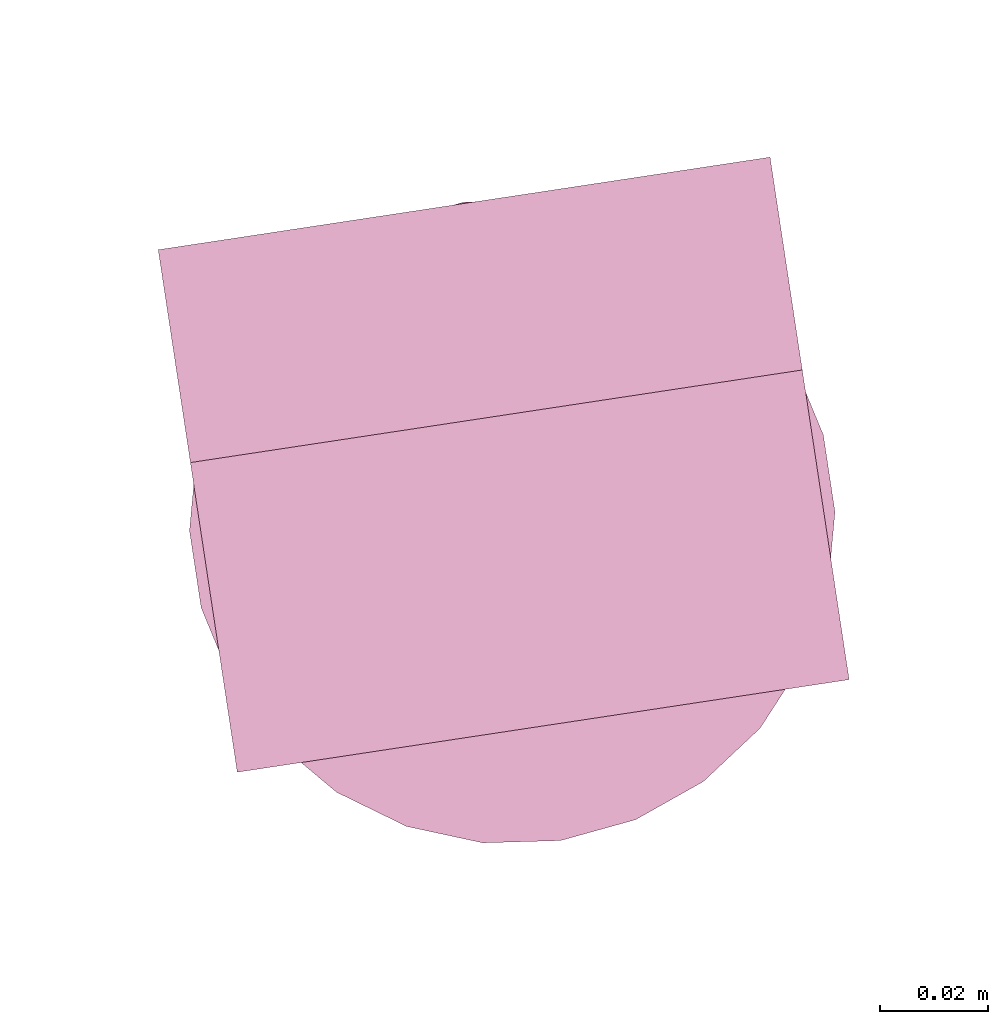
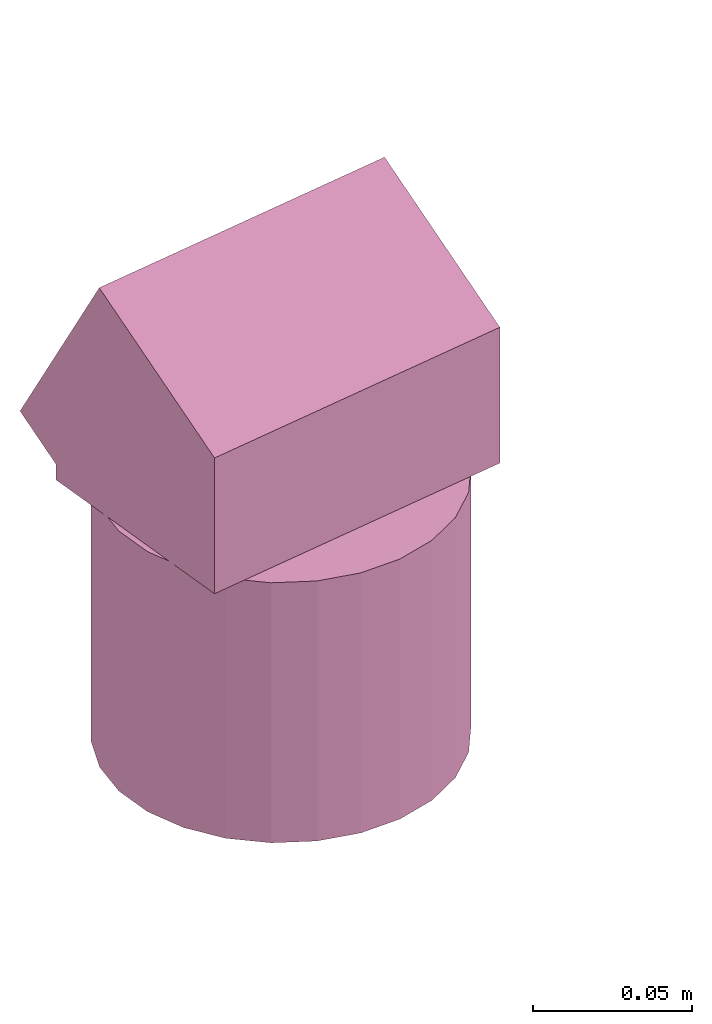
# One storey, part 6 of 10: 1 furnishing.
"""IFC2X3 building model written with IfcOpenShell, lengths in metres."""

from ifc_helpers import new_model, entity, si_unit, converted_unit, derived_unit, direction, frame, frame_2d, origin, place, context, subcontext, project, spatial, polyline, circle, outline, extrude, source, transform, mapped, material, material_list, type_object, type_shapes, element, save


model = new_model("IFC2X3")

# Units and contexts
model_context = context("Model", 3, precision=1e-05, world=origin(), true_north=direction((6.123031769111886e-17, 1.0)))
body_context = subcontext(model_context, "Body", "Model", "MODEL_VIEW")
ifc_project = project(units=[si_unit("LENGTHUNIT", "METRE"), si_unit("AREAUNIT", "SQUARE_METRE"), si_unit("VOLUMEUNIT", "CUBIC_METRE"), converted_unit("PLANEANGLEUNIT", "DEGREE", entity("IfcRatioMeasure", 0.017453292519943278), si_unit("PLANEANGLEUNIT", "RADIAN"), dimensions=[0, 0, 0, 0, 0, 0, 0]), si_unit("MASSUNIT", "GRAM", prefix="KILO"), derived_unit("MASSDENSITYUNIT", [(si_unit("MASSUNIT", "GRAM", prefix="KILO"), 1), (si_unit("LENGTHUNIT", "METRE"), -3)]), derived_unit("IONCONCENTRATIONUNIT", [(si_unit("MASSUNIT", "GRAM", prefix="KILO"), 1), (si_unit("LENGTHUNIT", "METRE"), -3)]), derived_unit("MOMENTOFINERTIAUNIT", [(si_unit("LENGTHUNIT", "METRE"), 4)]), si_unit("TIMEUNIT", "SECOND"), si_unit("FREQUENCYUNIT", "HERTZ"), si_unit("THERMODYNAMICTEMPERATUREUNIT", "DEGREE_CELSIUS"), derived_unit("THERMALTRANSMITTANCEUNIT", [(si_unit("MASSUNIT", "GRAM", prefix="KILO"), 1), (si_unit("THERMODYNAMICTEMPERATUREUNIT", "KELVIN"), -1), (si_unit("TIMEUNIT", "SECOND"), -3)]), derived_unit("THERMALCONDUCTANCEUNIT", [(si_unit("MASSUNIT", "GRAM", prefix="KILO"), 1), (si_unit("THERMODYNAMICTEMPERATUREUNIT", "KELVIN"), -1), (si_unit("TIMEUNIT", "SECOND"), -3), (si_unit("LENGTHUNIT", "METRE"), 1)]), derived_unit("VOLUMETRICFLOWRATEUNIT", [(si_unit("LENGTHUNIT", "METRE"), 3), (si_unit("TIMEUNIT", "SECOND"), -1)]), derived_unit("MASSFLOWRATEUNIT", [(si_unit("MASSUNIT", "GRAM", prefix="KILO"), 1), (si_unit("TIMEUNIT", "SECOND"), -1)]), derived_unit("ROTATIONALFREQUENCYUNIT", [(si_unit("TIMEUNIT", "SECOND"), -1)]), si_unit("ELECTRICCURRENTUNIT", "AMPERE"), si_unit("ELECTRICVOLTAGEUNIT", "VOLT"), si_unit("POWERUNIT", "WATT"), si_unit("FORCEUNIT", "NEWTON", prefix="KILO"), si_unit("ILLUMINANCEUNIT", "LUX"), si_unit("LUMINOUSFLUXUNIT", "LUMEN"), si_unit("LUMINOUSINTENSITYUNIT", "CANDELA"), derived_unit("USERDEFINED", [(si_unit("MASSUNIT", "GRAM", prefix="KILO"), -1), (si_unit("LENGTHUNIT", "METRE"), -2), (si_unit("TIMEUNIT", "SECOND"), 3), (si_unit("LUMINOUSFLUXUNIT", "LUMEN"), 1)]), derived_unit("USERDEFINED", [(si_unit("MASSUNIT", "GRAM", prefix="KILO"), 1), (si_unit("TIMEUNIT", "SECOND"), -3), (si_unit("LENGTHUNIT", "METRE"), 3), (si_unit("ELECTRICCURRENTUNIT", "AMPERE"), -2)]), derived_unit("SOUNDPOWERUNIT", [(si_unit("MASSUNIT", "GRAM", prefix="KILO"), 1), (si_unit("TIMEUNIT", "SECOND"), -3), (si_unit("LENGTHUNIT", "METRE"), 2)]), derived_unit("SOUNDPRESSUREUNIT", [(si_unit("MASSUNIT", "GRAM", prefix="KILO"), 1), (si_unit("LENGTHUNIT", "METRE"), -1), (si_unit("TIMEUNIT", "SECOND"), -2)]), derived_unit("LINEARVELOCITYUNIT", [(si_unit("LENGTHUNIT", "METRE"), 1), (si_unit("TIMEUNIT", "SECOND"), -1)]), si_unit("PRESSUREUNIT", "PASCAL"), derived_unit("USERDEFINED", [(si_unit("MASSUNIT", "GRAM", prefix="KILO"), 1), (si_unit("LENGTHUNIT", "METRE"), -2), (si_unit("TIMEUNIT", "SECOND"), -2)]), derived_unit("LINEARFORCEUNIT", [(si_unit("MASSUNIT", "GRAM", prefix="KILO"), 1), (si_unit("TIMEUNIT", "SECOND"), -2)]), derived_unit("PLANARFORCEUNIT", [(si_unit("MASSUNIT", "GRAM", prefix="KILO"), 1), (si_unit("LENGTHUNIT", "METRE"), -1), (si_unit("TIMEUNIT", "SECOND"), -2)]), derived_unit("SPECIFICHEATCAPACITYUNIT", [(si_unit("THERMODYNAMICTEMPERATUREUNIT", "KELVIN"), -1), (si_unit("LENGTHUNIT", "METRE"), 2), (si_unit("TIMEUNIT", "SECOND"), -2)]), derived_unit("HEATINGVALUEUNIT", [(si_unit("LENGTHUNIT", "METRE"), 2), (si_unit("TIMEUNIT", "SECOND"), -2)]), derived_unit("VAPORPERMEABILITYUNIT", [(si_unit("LENGTHUNIT", "METRE"), -1), (si_unit("TIMEUNIT", "SECOND"), 1)]), derived_unit("DYNAMICVISCOSITYUNIT", [(si_unit("MASSUNIT", "GRAM", prefix="KILO"), 1), (si_unit("TIMEUNIT", "SECOND"), -1), (si_unit("LENGTHUNIT", "METRE"), -1)]), derived_unit("THERMALEXPANSIONCOEFFICIENTUNIT", [(si_unit("THERMODYNAMICTEMPERATUREUNIT", "KELVIN"), -1)]), derived_unit("MODULUSOFELASTICITYUNIT", [(si_unit("MASSUNIT", "GRAM", prefix="KILO"), 1), (si_unit("LENGTHUNIT", "METRE"), -1), (si_unit("TIMEUNIT", "SECOND"), -2)]), derived_unit("ISOTHERMALMOISTURECAPACITYUNIT", [(si_unit("LENGTHUNIT", "METRE"), 3), (si_unit("MASSUNIT", "GRAM", prefix="KILO"), -1)]), derived_unit("MOISTUREDIFFUSIVITYUNIT", [(si_unit("TIMEUNIT", "SECOND"), -1), (si_unit("LENGTHUNIT", "METRE"), 2)])], contexts=[model_context])

# Site, building, storey
site_placement = place(None, origin())
site = spatial("IfcSite", under=ifc_project, at=site_placement, Name="Default", CompositionType="ELEMENT")
building_placement = place(site_placement, origin())
building = spatial("IfcBuilding", under=site, at=building_placement, Name="Projeto", CompositionType="ELEMENT")
storey_placement = place(building_placement, frame((0.0, 0.0, -2.581035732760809)))
storey = spatial("IfcBuildingStorey", under=building, at=storey_placement, Name="Nível 9", CompositionType="ELEMENT", Elevation=-2.581035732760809)

# Furnishing
ifc_material_1 = material(Name="Aço")
ifc_material_2 = material(Name="<Unnamed>")
ifc_material_list = material_list([ifc_material_1, ifc_material_2])
furniture_type = type_object("IfcFurnitureType", Name="Iluminação de chão:Iluminação de chão", material=ifc_material_list)
shared_shape = source(origin(), body_context, "Body", "SweptSolid", [
    extrude(outline(polyline([(-0.026756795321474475, -0.05273292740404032), (0.025445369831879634, -0.05273292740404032), (0.05904645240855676, 0.0054658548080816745), (-0.010235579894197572, 0.04546585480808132), (-0.02074265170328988, 0.027267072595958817), (-0.02675679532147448, 0.027267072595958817), (-0.026756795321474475, -0.05273292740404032)])), frame((0.014277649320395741, -0.05750000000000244, 0.026756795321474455), z_axis=(0.0, 1.0, 0.0), x_axis=(0.0, 0.0, 1.0)), (0.0, 0.0, 1.0), 0.11499999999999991),
    extrude(circle(Radius=0.059999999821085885, at=frame_2d((1.4775496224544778e-22, -9.693267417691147e-17), x_axis=(1.0, 0.0))), frame((0.0, 0.0, -0.10000000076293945)), (0.0, 0.0, 1.0), 0.10000000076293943),
])
type_shapes(furniture_type, [shared_shape])
furnishing_placement = place(storey_placement, frame((-21.12434622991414, 29.342225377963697, -0.01896426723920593), z_axis=(0.0, 0.0, 1.0), x_axis=(-0.149609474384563, 0.9887451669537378, 0.0)))
element("IfcFurnishingElement", 1, at=furnishing_placement, inside=storey, type_object=furniture_type, material=ifc_material_list, Name="Iluminação de chão:Iluminação de chão", ObjectType="Iluminação de chão:Iluminação de chão", context=body_context, shape_type="MappedRepresentation", body=[
    mapped(shared_shape, transform((0.0, 0.0, 0.0), scale=1.0)),
])

save(model, "model.ifc")
